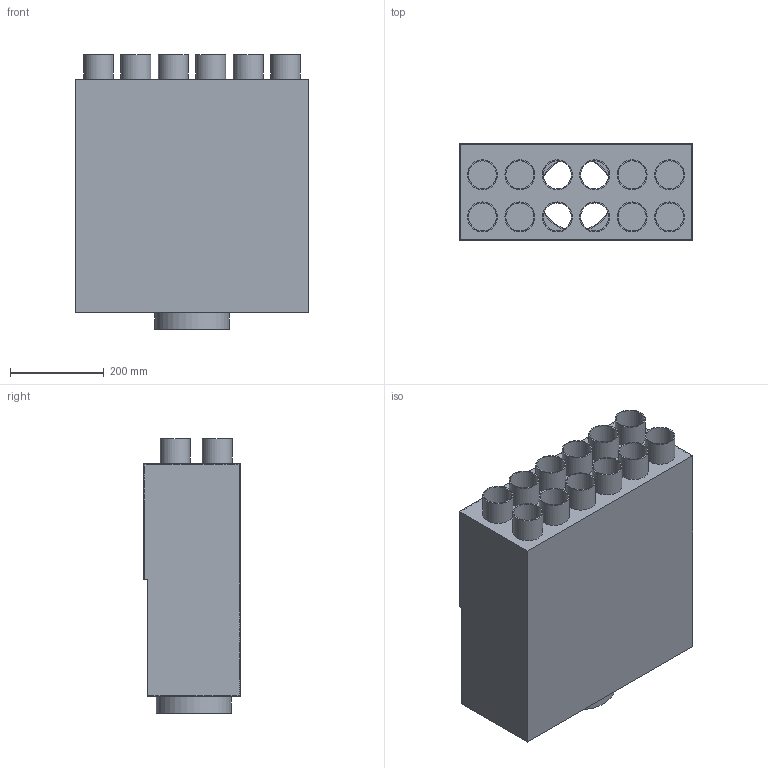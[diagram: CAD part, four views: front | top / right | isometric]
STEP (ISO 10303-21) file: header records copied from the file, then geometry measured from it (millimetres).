
FILE_DESCRIPTION(/* description */ (''),/* implementation_level */ '2;1');
FILE_NAME(/* name */ 'Z:\Output\FRS-VK_12-63_160-09336-001.stp',/* time_stamp */ '2017-09-13T14:06:19+02:00',/* author */ ('Engineering1'),/* organization */ (''),/* preprocessor_version */ 'ST-DEVELOPER v16.5',/* originating_system */ 'Autodesk Inventor 2017',/* authorisation */ '');
FILE_SCHEMA (('AUTOMOTIVE_DESIGN { 1 0 10303 214 3 1 1 }'));
Length unit declared in the file: millimetre
Products named in the file (1): FRS-VK_63
Bounding box: 500 x 207.6 x 587 mm (x, y, z)
Volume: 1975287 mm3; surface area: 1980823.1 mm2
Topology: 1 solids, 1 shells, 55 faces, 114 edges, 76 vertices
Faces by surface type: plane 29, cylinder 26
Full cylindrical faces by diameter (mm): 60 x12, 64 x12, 156 x1, 160 x1
Entity records: 1428 total; most frequent: DIRECTION 252, CARTESIAN_POINT 220, ORIENTED_EDGE 176, EDGE_LOOP 120, AXIS2_PLACEMENT_3D 108, EDGE_CURVE 88, VERTEX_POINT 76, FACE_BOUND 65
